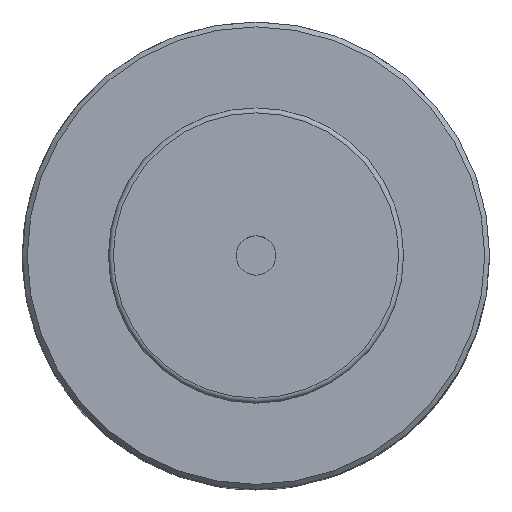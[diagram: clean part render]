
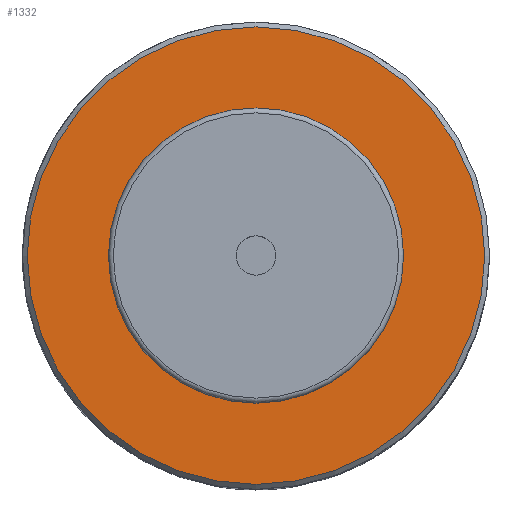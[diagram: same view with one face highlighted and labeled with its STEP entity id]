
A CAD part, top view. The second image highlights one B-rep face of the part: STEP entity #1332.
In plain terms, the highlighted planar face has unit normal (0, 0, 1).
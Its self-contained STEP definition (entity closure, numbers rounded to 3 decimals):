
#1312 = VERTEX_POINT('',#1313);
#1313 = CARTESIAN_POINT('',(46.5,0.,80.));
#1321 = EDGE_CURVE('',#1312,#1312,#1322,.T.);
#1322 = CIRCLE('',#1323,46.5);
#1323 = AXIS2_PLACEMENT_3D('',#1324,#1325,#1326);
#1324 = CARTESIAN_POINT('',(0.,0.,80.));
#1325 = DIRECTION('',(0.,0.,1.));
#1326 = DIRECTION('',(1.,0.,-0.));
#1332 = ADVANCED_FACE('',(#1333),#1336,.T.);
#1333 = FACE_BOUND('',#1334,.T.);
#1334 = EDGE_LOOP('',(#1335));
#1335 = ORIENTED_EDGE('',*,*,#1321,.T.);
#1336 = PLANE('',#1337);
#1337 = AXIS2_PLACEMENT_3D('',#1338,#1339,#1340);
#1338 = CARTESIAN_POINT('',(0.,0.,80.));
#1339 = DIRECTION('',(0.,0.,1.));
#1340 = DIRECTION('',(1.,0.,-0.));
